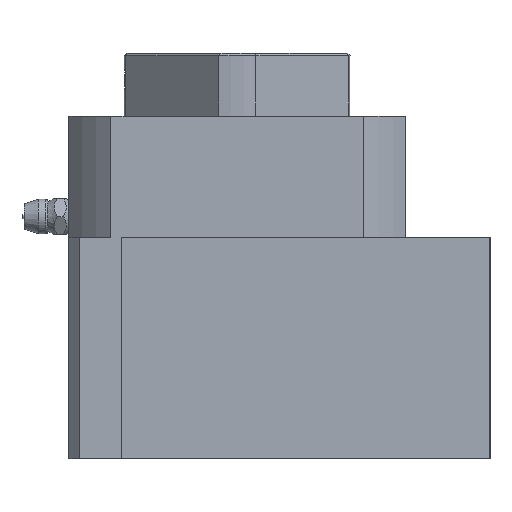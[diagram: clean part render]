
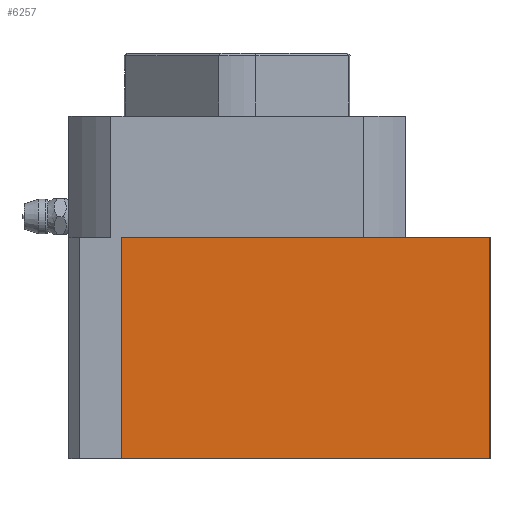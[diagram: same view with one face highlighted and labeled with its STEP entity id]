
A CAD part, left-side view. The second image highlights one B-rep face of the part: STEP entity #6257.
In plain terms, the highlighted planar face has unit normal (-1, 0, 0).
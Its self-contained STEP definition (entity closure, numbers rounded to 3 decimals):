
#82 = AXIS2_PLACEMENT_3D ( 'NONE', #7891, #13002, #1715 ) ;
#115 = CARTESIAN_POINT ( 'NONE',  ( -53., -48., 0. ) ) ;
#640 = ORIENTED_EDGE ( 'NONE', *, *, #6977, .F. ) ;
#1091 = FACE_OUTER_BOUND ( 'NONE', #9400, .T. ) ;
#1715 = DIRECTION ( 'NONE',  ( 0., 0., -1. ) ) ;
#1828 = LINE ( 'NONE', #9643, #12854 ) ;
#2788 = PLANE ( 'NONE',  #82 ) ;
#3868 = ORIENTED_EDGE ( 'NONE', *, *, #13297, .T. ) ;
#4586 = VECTOR ( 'NONE', #12909, 1000. ) ;
#4871 = CARTESIAN_POINT ( 'NONE',  ( -53., 22., 42. ) ) ;
#5242 = DIRECTION ( 'NONE',  ( 0., -1., 0. ) ) ;
#5600 = VERTEX_POINT ( 'NONE', #115 ) ;
#5701 = DIRECTION ( 'NONE',  ( 0., 0., -1. ) ) ;
#6021 = ORIENTED_EDGE ( 'NONE', *, *, #13459, .F. ) ;
#6257 = ADVANCED_FACE ( 'NONE', ( #1091 ), #2788, .F. ) ;
#6379 = LINE ( 'NONE', #6635, #4586 ) ;
#6475 = CARTESIAN_POINT ( 'NONE',  ( -53., -48., 42. ) ) ;
#6601 = CARTESIAN_POINT ( 'NONE',  ( -53., 22., 0. ) ) ;
#6635 = CARTESIAN_POINT ( 'NONE',  ( -53., 22., 0. ) ) ;
#6977 = EDGE_CURVE ( 'NONE', #12550, #8069, #11370, .T. ) ;
#7891 = CARTESIAN_POINT ( 'NONE',  ( -53., 22., 42. ) ) ;
#8069 = VERTEX_POINT ( 'NONE', #6475 ) ;
#9216 = CARTESIAN_POINT ( 'NONE',  ( -53., 22., 42. ) ) ;
#9400 = EDGE_LOOP ( 'NONE', ( #12114, #6021, #640, #3868 ) ) ;
#9416 = VECTOR ( 'NONE', #5242, 1000. ) ;
#9503 = DIRECTION ( 'NONE',  ( 0., 0., -1. ) ) ;
#9643 = CARTESIAN_POINT ( 'NONE',  ( -53., 22., 42. ) ) ;
#9754 = LINE ( 'NONE', #11916, #11874 ) ;
#10828 = VERTEX_POINT ( 'NONE', #6601 ) ;
#11370 = LINE ( 'NONE', #9216, #9416 ) ;
#11874 = VECTOR ( 'NONE', #5701, 1000. ) ;
#11916 = CARTESIAN_POINT ( 'NONE',  ( -53., -48., 42. ) ) ;
#12114 = ORIENTED_EDGE ( 'NONE', *, *, #12247, .T. ) ;
#12247 = EDGE_CURVE ( 'NONE', #10828, #5600, #6379, .T. ) ;
#12550 = VERTEX_POINT ( 'NONE', #4871 ) ;
#12854 = VECTOR ( 'NONE', #9503, 1000. ) ;
#12909 = DIRECTION ( 'NONE',  ( 0., -1., 0. ) ) ;
#13002 = DIRECTION ( 'NONE',  ( 1., 0., 0. ) ) ;
#13297 = EDGE_CURVE ( 'NONE', #12550, #10828, #1828, .T. ) ;
#13459 = EDGE_CURVE ( 'NONE', #8069, #5600, #9754, .T. ) ;
